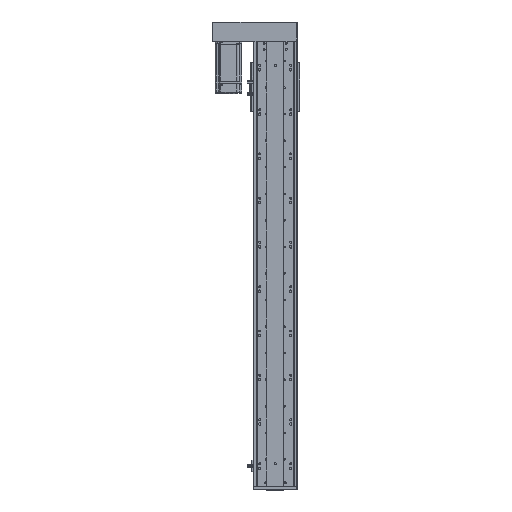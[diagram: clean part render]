
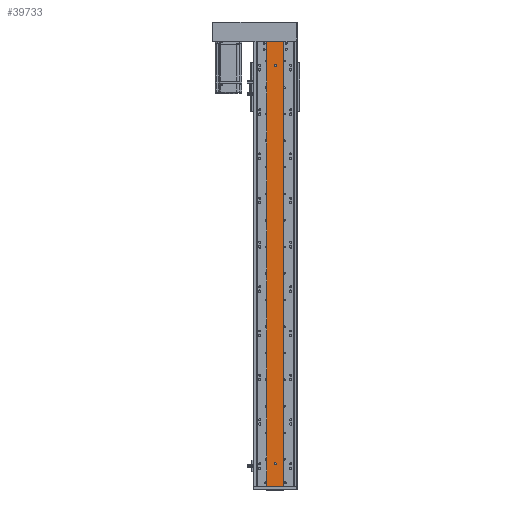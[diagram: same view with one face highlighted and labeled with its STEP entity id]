
A CAD part, top view. The second image highlights one B-rep face of the part: STEP entity #39733.
In plain terms, the highlighted planar face has unit normal (0, 0, 1).
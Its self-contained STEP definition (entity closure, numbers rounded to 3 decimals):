
#893 = VERTEX_POINT ( 'NONE', #46851 ) ;
#900 = VERTEX_POINT ( 'NONE', #46837 ) ;
#929 = VERTEX_POINT ( 'NONE', #46930 ) ;
#932 = VERTEX_POINT ( 'NONE', #46942 ) ;
#10745 = AXIS2_PLACEMENT_3D ( 'NONE', #17266, #17308, #17283 ) ;
#11571 = AXIS2_PLACEMENT_3D ( 'NONE', #21742, #21743, #21755 ) ;
#11577 = AXIS2_PLACEMENT_3D ( 'NONE', #22051, #21955, #22016 ) ;
#17266 = CARTESIAN_POINT ( 'NONE',  ( -10645.079, 1006., -17040.86 ) ) ;
#17283 = DIRECTION ( 'NONE',  ( -1., 0., 0. ) ) ;
#17307 = PLANE ( 'NONE',  #10745 ) ;
#17308 = DIRECTION ( 'NONE',  ( 0., 0., -1. ) ) ;
#19783 = AXIS2_PLACEMENT_3D ( 'NONE', #23993, #23983, #23994 ) ;
#19799 = AXIS2_PLACEMENT_3D ( 'NONE', #23866, #23858, #23876 ) ;
#20883 = FACE_OUTER_BOUND ( 'NONE', #49798, .T. ) ;
#20903 = FACE_BOUND ( 'NONE', #49808, .T. ) ;
#20978 = FACE_BOUND ( 'NONE', #49789, .T. ) ;
#21742 = CARTESIAN_POINT ( 'NONE',  ( -10626.079, 51., -17040.86 ) ) ;
#21743 = DIRECTION ( 'NONE',  ( 0., 0., -1. ) ) ;
#21755 = DIRECTION ( 'NONE',  ( -1., 0., 0. ) ) ;
#21955 = DIRECTION ( 'NONE',  ( 0., 0., -1. ) ) ;
#22016 = DIRECTION ( 'NONE',  ( -1., 0., 0. ) ) ;
#22051 = CARTESIAN_POINT ( 'NONE',  ( -10626.079, 951., -17040.86 ) ) ;
#23256 = CARTESIAN_POINT ( 'NONE',  ( -10645.079, 1006., -17040.86 ) ) ;
#23289 = DIRECTION ( 'NONE',  ( 1., 0., 0. ) ) ;
#23807 = DIRECTION ( 'NONE',  ( 1., 0., 0. ) ) ;
#23822 = CARTESIAN_POINT ( 'NONE',  ( -10645.079, 0., -17040.86 ) ) ;
#23844 = DIRECTION ( 'NONE',  ( 0., -1., 0. ) ) ;
#23858 = DIRECTION ( 'NONE',  ( 0., 0., -1. ) ) ;
#23866 = CARTESIAN_POINT ( 'NONE',  ( -10626.079, 951., -17040.86 ) ) ;
#23876 = DIRECTION ( 'NONE',  ( -1., 0., 0. ) ) ;
#23880 = CARTESIAN_POINT ( 'NONE',  ( -10645.079, 1006., -17040.86 ) ) ;
#23983 = DIRECTION ( 'NONE',  ( 0., 0., -1. ) ) ;
#23993 = CARTESIAN_POINT ( 'NONE',  ( -10626.079, 51., -17040.86 ) ) ;
#23994 = DIRECTION ( 'NONE',  ( -1., 0., 0. ) ) ;
#24043 = CARTESIAN_POINT ( 'NONE',  ( -10607.079, 1006., -17040.86 ) ) ;
#24095 = DIRECTION ( 'NONE',  ( 0., -1., 0. ) ) ;
#24994 = CARTESIAN_POINT ( 'NONE',  ( -10628.579, 51., -17040.86 ) ) ;
#25015 = CARTESIAN_POINT ( 'NONE',  ( -10623.579, 51., -17040.86 ) ) ;
#25033 = CARTESIAN_POINT ( 'NONE',  ( -10628.579, 951., -17040.86 ) ) ;
#25041 = CARTESIAN_POINT ( 'NONE',  ( -10623.579, 951., -17040.86 ) ) ;
#26282 = LINE ( 'NONE', #23880, #26393 ) ;
#26330 = LINE ( 'NONE', #23822, #26386 ) ;
#26351 = CIRCLE ( 'NONE', #19799, 2.5 ) ;
#26386 = VECTOR ( 'NONE', #23807, 1000. ) ;
#26393 = VECTOR ( 'NONE', #23844, 1000. ) ;
#26475 = CIRCLE ( 'NONE', #19783, 2.5 ) ;
#26606 = LINE ( 'NONE', #24043, #26608 ) ;
#26608 = VECTOR ( 'NONE', #24095, 1000. ) ;
#26664 = LINE ( 'NONE', #23256, #26701 ) ;
#26701 = VECTOR ( 'NONE', #23289, 1000. ) ;
#30113 = ORIENTED_EDGE ( 'NONE', *, *, #35136, .T. ) ;
#30174 = ORIENTED_EDGE ( 'NONE', *, *, #35278, .F. ) ;
#30180 = ORIENTED_EDGE ( 'NONE', *, *, #44466, .T. ) ;
#30182 = ORIENTED_EDGE ( 'NONE', *, *, #35197, .T. ) ;
#30189 = ORIENTED_EDGE ( 'NONE', *, *, #35156, .T. ) ;
#30191 = ORIENTED_EDGE ( 'NONE', *, *, #35163, .T. ) ;
#30202 = ORIENTED_EDGE ( 'NONE', *, *, #35233, .F. ) ;
#30212 = ORIENTED_EDGE ( 'NONE', *, *, #44436, .T. ) ;
#34196 = CIRCLE ( 'NONE', #11571, 2.5 ) ;
#34314 = CIRCLE ( 'NONE', #11577, 2.5 ) ;
#35136 = EDGE_CURVE ( 'NONE', #929, #932, #26330, .T. ) ;
#35156 = EDGE_CURVE ( 'NONE', #51495, #51534, #26351, .T. ) ;
#35163 = EDGE_CURVE ( 'NONE', #900, #929, #26282, .T. ) ;
#35197 = EDGE_CURVE ( 'NONE', #51405, #51477, #26475, .T. ) ;
#35233 = EDGE_CURVE ( 'NONE', #893, #932, #26606, .T. ) ;
#35278 = EDGE_CURVE ( 'NONE', #900, #893, #26664, .T. ) ;
#39733 = ADVANCED_FACE ( 'NONE', ( #20903, #20978, #20883 ), #17307, .F. ) ;
#44436 = EDGE_CURVE ( 'NONE', #51477, #51405, #34196, .T. ) ;
#44466 = EDGE_CURVE ( 'NONE', #51534, #51495, #34314, .T. ) ;
#46837 = CARTESIAN_POINT ( 'NONE',  ( -10645.079, 1006., -17040.86 ) ) ;
#46851 = CARTESIAN_POINT ( 'NONE',  ( -10607.079, 1006., -17040.86 ) ) ;
#46930 = CARTESIAN_POINT ( 'NONE',  ( -10645.079, 0., -17040.86 ) ) ;
#46942 = CARTESIAN_POINT ( 'NONE',  ( -10607.079, 0., -17040.86 ) ) ;
#49789 = EDGE_LOOP ( 'NONE', ( #30212, #30182 ) ) ;
#49798 = EDGE_LOOP ( 'NONE', ( #30113, #30202, #30174, #30191 ) ) ;
#49808 = EDGE_LOOP ( 'NONE', ( #30180, #30189 ) ) ;
#51405 = VERTEX_POINT ( 'NONE', #24994 ) ;
#51477 = VERTEX_POINT ( 'NONE', #25015 ) ;
#51495 = VERTEX_POINT ( 'NONE', #25033 ) ;
#51534 = VERTEX_POINT ( 'NONE', #25041 ) ;
